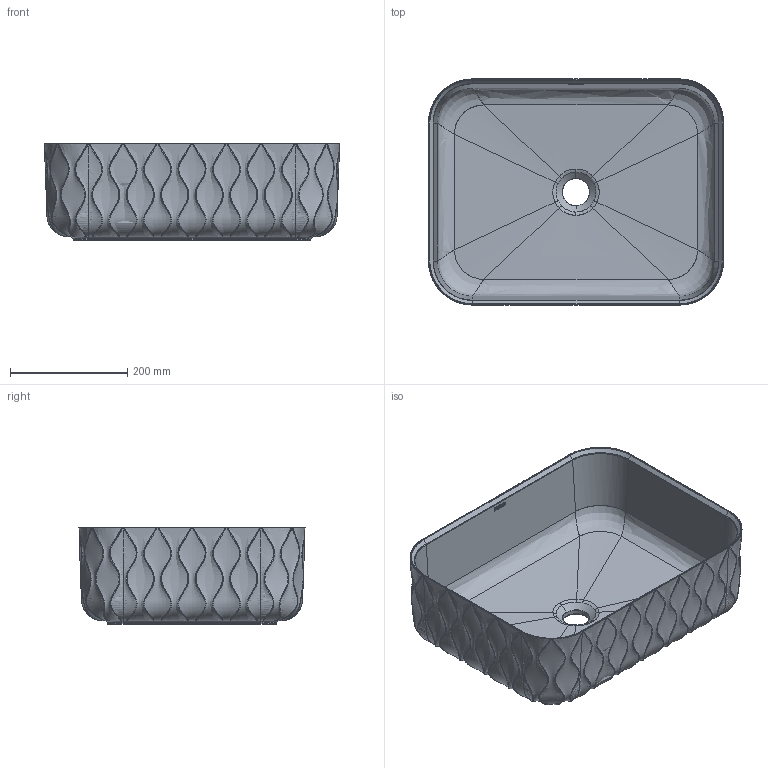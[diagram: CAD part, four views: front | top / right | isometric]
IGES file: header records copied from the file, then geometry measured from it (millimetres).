
Global section: file name: C:\Users\User\Desktop\4169_SandWaves 50.igs; native system: Rhinoceros ( May  7 2021 ); preprocessor: Trout Lake IGES 012 May  7 2021; date: 231113.100210; units: millimetre
Bounding box: 502.45 x 384.96 x 165 mm (x, y, z)
Surface area: 803737.8 mm2 (no closed solid volume)
Topology: 0 solids, 0 shells, 337 faces, 3683 edges, 3635 vertices
Faces by surface type: bspline 337
